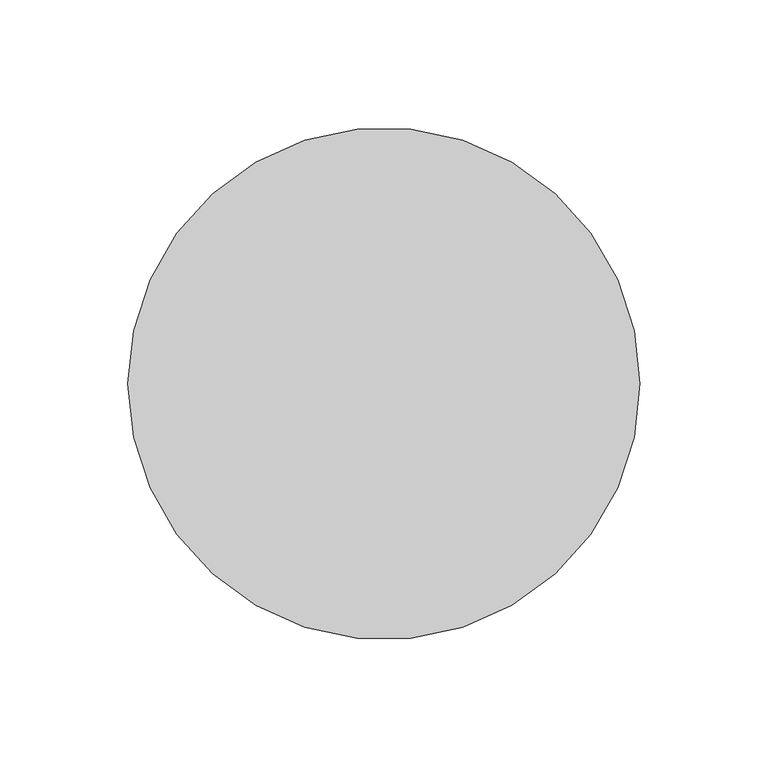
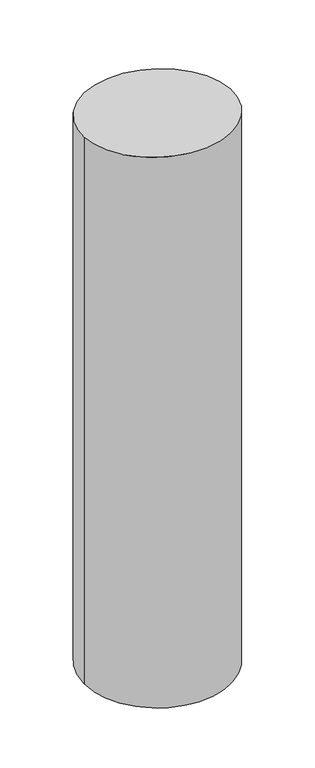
"""IFC4 building model written with IfcOpenShell, lengths in millimetres: member geometry, 矩形竖梃 : 圆瓦."""

from ifc_helpers import new_model, si_unit, frame, origin, origin_with_axes, place, context, project, spatial, circle_curve, ellipse_curve, source, transform, mapped, element, save
from ifc_brep_helpers import plane_surface, cylinder_surface, advanced_brep


def member_42887ada(model_context):
    return source(origin(), model_context, "Body", "AdvancedBrep", [
        advanced_brep(
        [(100.0, 0.0, -790.1124317), (-100.0, 0.0, -790.1124317), (-100.0, 0.0, 0.0), (100.0, 0.0, 0.0)],
        [
            (0, 1, circle_curve(frame((0.0, 0.0, -790.1124317), z_axis=(0.0, 0.0, -1.0), x_axis=(1.0, 0.0, 0.0)), 100.0)),
            (1, 0, circle_curve(frame((0.0, 0.0, -790.1124317), z_axis=(0.0, 0.0, -1.0), x_axis=(1.0, 0.0, 0.0)), 100.0)),
            (2, 3, ellipse_curve(frame((0.0, 0.0, 0.0), z_axis=(0.0, -0.06767279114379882, -0.9977075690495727), x_axis=(0.0, -0.9977075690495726, 0.06767279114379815)), 100.2297698, 100.0)),
            (3, 0),
            (1, 2),
            (3, 2, ellipse_curve(frame((0.0, 0.0, 0.0), z_axis=(0.0, -0.06767279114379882, -0.9977075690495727), x_axis=(0.0, -0.9977075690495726, 0.06767279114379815)), 100.2297698, 100.0)),
        ],
        [
            plane_surface(frame((0.0, -100.0, -790.1124317), z_axis=(0.0, 0.0, -1.0), x_axis=(-1.0, 0.0, 0.0))),
            cylinder_surface(origin_with_axes(), 100.0),
            plane_surface(frame((-304.8, 0.0, 0.0), z_axis=(0.0, 0.06767279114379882, 0.9977075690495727), x_axis=(0.0, 0.9977075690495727, -0.06767279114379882))),
        ],
        [
            (0, [[1, 2]]),
            (1, [[3, 4, -2, 5]]),
            (1, [[6, -5, -1, -4]]),
            (2, [[-3, -6]]),
        ],
    ),
    ])


if __name__ == "__main__":
    model = new_model("IFC4")
    model_context = context("Model", 3, world=origin())
    ifc_project = project(units=[si_unit("LENGTHUNIT", "METRE", prefix="MILLI")], contexts=[model_context])
    site = spatial("IfcSite", under=ifc_project)
    building = spatial("IfcBuilding", under=site)
    placement = place(None, origin())
    member_shape = member_42887ada(model_context)
    element("IfcMember", 1, ObjectType="矩形竖梃 : 圆瓦", at=placement, inside=building, context=model_context, shape_type="MappedRepresentation", body=[
        mapped(member_shape, transform((0.0, 0.0, 0.0), x_axis=(1.0, 0.0, 0.0), y_axis=(0.0, 1.0, 0.0), z_axis=(0.0, 0.0, 1.0))),
    ])
    save(model, "model.ifc")
